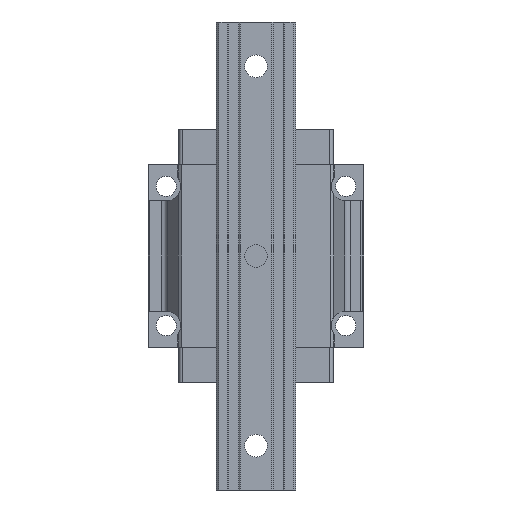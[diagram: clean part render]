
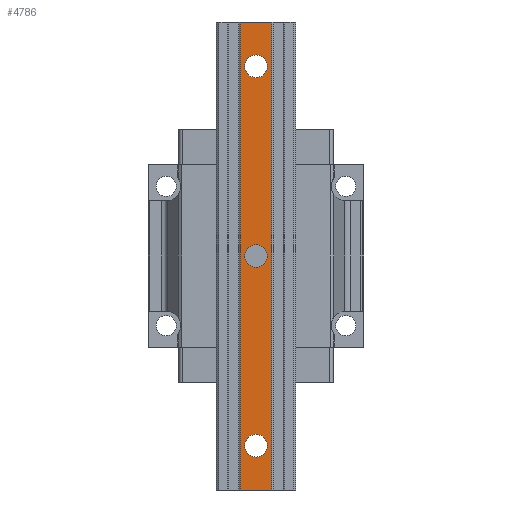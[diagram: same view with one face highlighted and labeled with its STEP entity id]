
A CAD part, front view. The second image highlights one B-rep face of the part: STEP entity #4786.
In plain terms, the highlighted planar face has unit normal (0, -1, 0).
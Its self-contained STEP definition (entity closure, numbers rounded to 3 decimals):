
#3786=DIRECTION('',(-1.,0.,0.));
#3787=VECTOR('',#3786,25.);
#3788=CARTESIAN_POINT('',(12.5,-53.,-185.));
#3789=LINE('',#3788,#3787);
#3790=DIRECTION('',(0.,0.,-1.));
#3791=VECTOR('',#3790,370.);
#3792=CARTESIAN_POINT('',(12.5,-53.,185.));
#3793=LINE('',#3792,#3791);
#3794=CARTESIAN_POINT('',(0.,-53.,0.));
#3795=DIRECTION('',(0.,-1.,0.));
#3796=DIRECTION('',(1.,0.,0.));
#3797=AXIS2_PLACEMENT_3D('',#3794,#3795,#3796);
#3799=CARTESIAN_POINT('',(0.,-53.,0.));
#3800=DIRECTION('',(0.,-1.,0.));
#3801=DIRECTION('',(-1.,0.,0.));
#3802=AXIS2_PLACEMENT_3D('',#3799,#3800,#3801);
#3804=CARTESIAN_POINT('',(0.,-53.,150.));
#3805=DIRECTION('',(0.,-1.,0.));
#3806=DIRECTION('',(1.,0.,0.));
#3807=AXIS2_PLACEMENT_3D('',#3804,#3805,#3806);
#3809=CARTESIAN_POINT('',(0.,-53.,150.));
#3810=DIRECTION('',(0.,-1.,0.));
#3811=DIRECTION('',(-1.,0.,0.));
#3812=AXIS2_PLACEMENT_3D('',#3809,#3810,#3811);
#3814=CARTESIAN_POINT('',(0.,-53.,-150.));
#3815=DIRECTION('',(0.,-1.,0.));
#3816=DIRECTION('',(1.,0.,0.));
#3817=AXIS2_PLACEMENT_3D('',#3814,#3815,#3816);
#3819=CARTESIAN_POINT('',(0.,-53.,-150.));
#3820=DIRECTION('',(0.,-1.,0.));
#3821=DIRECTION('',(-1.,0.,0.));
#3822=AXIS2_PLACEMENT_3D('',#3819,#3820,#3821);
#3824=DIRECTION('',(0.,0.,-1.));
#3825=VECTOR('',#3824,370.);
#3826=CARTESIAN_POINT('',(-12.5,-53.,185.));
#3827=LINE('',#3826,#3825);
#3997=DIRECTION('',(-1.,0.,0.));
#3998=VECTOR('',#3997,25.);
#3999=CARTESIAN_POINT('',(12.5,-53.,185.));
#4000=LINE('',#3999,#3998);
#4224=CARTESIAN_POINT('',(-12.5,-53.,-185.));
#4225=VERTEX_POINT('',#4224);
#4226=CARTESIAN_POINT('',(12.5,-53.,-185.));
#4227=VERTEX_POINT('',#4226);
#4312=CARTESIAN_POINT('',(12.5,-53.,185.));
#4313=VERTEX_POINT('',#4312);
#4314=CARTESIAN_POINT('',(-12.5,-53.,185.));
#4315=VERTEX_POINT('',#4314);
#4316=CARTESIAN_POINT('',(9.,-53.,0.));
#4317=CARTESIAN_POINT('',(-9.,-53.,0.));
#4318=VERTEX_POINT('',#4316);
#4319=VERTEX_POINT('',#4317);
#4320=CARTESIAN_POINT('',(9.,-53.,150.));
#4321=CARTESIAN_POINT('',(-9.,-53.,150.));
#4322=VERTEX_POINT('',#4320);
#4323=VERTEX_POINT('',#4321);
#4324=CARTESIAN_POINT('',(9.,-53.,-150.));
#4325=CARTESIAN_POINT('',(-9.,-53.,-150.));
#4326=VERTEX_POINT('',#4324);
#4327=VERTEX_POINT('',#4325);
#4755=CARTESIAN_POINT('',(-12.5,-53.,-185.));
#4756=DIRECTION('',(0.,-1.,0.));
#4757=DIRECTION('',(1.,0.,0.));
#4758=AXIS2_PLACEMENT_3D('',#4755,#4756,#4757);
#4759=PLANE('',#4758);
#4760=ORIENTED_EDGE('',*,*,#4429,.T.);
#4762=ORIENTED_EDGE('',*,*,#4761,.F.);
#4764=ORIENTED_EDGE('',*,*,#4763,.F.);
#4765=ORIENTED_EDGE('',*,*,#4747,.T.);
#4766=EDGE_LOOP('',(#4760,#4762,#4764,#4765));
#4767=FACE_OUTER_BOUND('',#4766,.F.);
#4769=ORIENTED_EDGE('',*,*,#4768,.T.);
#4771=ORIENTED_EDGE('',*,*,#4770,.T.);
#4772=EDGE_LOOP('',(#4769,#4771));
#4773=FACE_BOUND('',#4772,.F.);
#4775=ORIENTED_EDGE('',*,*,#4774,.T.);
#4777=ORIENTED_EDGE('',*,*,#4776,.T.);
#4778=EDGE_LOOP('',(#4775,#4777));
#4779=FACE_BOUND('',#4778,.F.);
#4781=ORIENTED_EDGE('',*,*,#4780,.T.);
#4783=ORIENTED_EDGE('',*,*,#4782,.T.);
#4784=EDGE_LOOP('',(#4781,#4783));
#4785=FACE_BOUND('',#4784,.F.);
#4786=ADVANCED_FACE('',(#4767,#4773,#4779,#4785),#4759,.T.);
#3798=CIRCLE('',#3797,9.);
#3803=CIRCLE('',#3802,9.);
#3808=CIRCLE('',#3807,9.);
#3813=CIRCLE('',#3812,9.);
#3818=CIRCLE('',#3817,9.);
#3823=CIRCLE('',#3822,9.);
#4429=EDGE_CURVE('',#4227,#4225,#3789,.T.);
#4747=EDGE_CURVE('',#4313,#4227,#3793,.T.);
#4761=EDGE_CURVE('',#4315,#4225,#3827,.T.);
#4763=EDGE_CURVE('',#4313,#4315,#4000,.T.);
#4768=EDGE_CURVE('',#4318,#4319,#3798,.T.);
#4770=EDGE_CURVE('',#4319,#4318,#3803,.T.);
#4774=EDGE_CURVE('',#4322,#4323,#3808,.T.);
#4776=EDGE_CURVE('',#4323,#4322,#3813,.T.);
#4780=EDGE_CURVE('',#4326,#4327,#3818,.T.);
#4782=EDGE_CURVE('',#4327,#4326,#3823,.T.);
